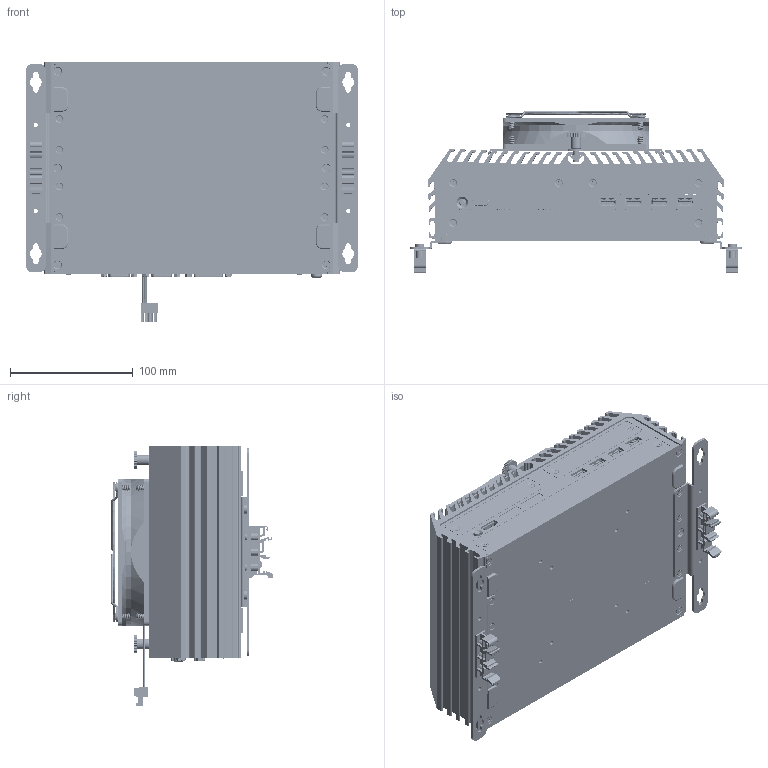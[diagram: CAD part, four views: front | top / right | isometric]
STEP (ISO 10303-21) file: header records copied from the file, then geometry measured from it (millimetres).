
FILE_DESCRIPTION (( 'STEP AP203' ), '1' );
FILE_NAME ('DX-1200+Wall Mount+DIN Rail+FAN_20260727.STEP', '2026-07-27T03:26:55', ( '' ), ( '' ), 'SwSTEP 2.0', 'SolidWorks 2014', '' );
FILE_SCHEMA (( 'CONFIG_CONTROL_DESIGN' ));
Length unit declared in the file: millimetre
Products named in the file (51): Din Rail-塑膠-町洋(M5-DINRZ790000); MANIFOLD_SOLID_BREP_901_1_1; Wall Mount Bracket(M1-208100051200); MANIFOLD_SOLID_BREP_902_1_1; Copper Stud_S38400B25N01(M3-COSD6L00000); Audio Jack_雙層_T-A032134001(23-D0262300090); NUT-M4_12; Main Board; Din Rail-塑膠-町洋(M5-DINRZ790000)-Screw-沙拉-90-十字-M3X10.5自攻_M3*4; Bottom Cover(M1-408100011100); MANIFOLD_SOLID_BREP_905_1_1; MANIFOLD_SOLID_BREP_900_1_1; Front Bezel(M1-408120024100); DVI-1-H-RISE(23-D0092300293); WHDM-19FLBSDR; DC_IN1_5EHDRM-03P_8(23-D0341500030); P頭_M5x8(十字)(太陽華司)(M3-SCREAB00002) ; MANIFOLD_SOLID_BREP_906_1_1; MANIFOLD_SOLID_BREP_903_1_1; Hole_Plug,MHD-7(M4-RUBR0100000); MANIFOLD_SOLID_BREP_907_1_1; DP1_Displayport_(23-D0242300200); PWR_BTN_TC003; 12_ASM_23_ASM; D-SUB 9_雙層_D20H1P1PA112A111N2(23-D0101100181); Symbol_Panel(M0-ZZZZ5C3003); Terminal Block_ECH350R-02P(23-D0341500020); M5-SP_3; Rubber Foot(M4-RUFT0100001); RITILA_ASM_1_ASM_4_ASM; F頭_M3x5(T10)(120)_黑(M3-N103052230); F頭_M3x18(T10)(120)+溝槽_黑(M3-1103182270); USB3.0_SMT_122-0921NA0504(23-S0142300090); MANIFOLD_SOLID_BREP_908_1_1; ROTOR_120MM_FAN_2_2; 120_X_120_X_25_DC_FAN_ASM_3_ASM_ASM; Top Cover(M1-408100006300); DX-1200+Wall Mount+DIN Rail+FAN_20260727; Front Matching Bezel(CNC)(M1-408100081220); F頭_M3X8(T10)(90)_黑(M3-N103082260)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
Assembly tree (107 placements, depth 4):
  DX-1200+Wall Mount+DIN Rail+FAN_20260727
    Top Cover(M1-408100006300)
      Top Cover
    Bottom Cover(M1-408100011100)
    Front Bezel(M1-408120024100)
    Rear Bezel(M1-408100031200)
    Front Matching Bezel(CNC)(M1-408100081220)
    Small Matching Bezel(M1-408100081200)  x4
    Main Board
      USB3.0_SMT_122-0921NA0504(23-S0142300090)  x4
      WHDM-19FLBSDR
      PWR_BTN_TC003
      Terminal Block_ECH350R-02P(23-D0341500020)
      Audio Jack_雙層_T-A032134001(23-D0262300090)
      D-SUB 9_雙層_D20H1P1PA112A111N2(23-D0101100181)  x2
      Terminal Block_ECH350R-04P(23-D0341500040)
      DP1_Displayport_(23-D0242300200)
      DVI-1-H-RISE(23-D0092300293)
      RJ45+USB3.0x2_三層_JFM38U1B_B313_4F(23-D0202300320)  x2
      DC_IN1_5EHDRM-03P_8(23-D0341500030)
    Copper Stud_S38400B25N01(M3-COSD6L00000)  x10
    F頭_M3x5(T10)(120)_黑(M3-N103052230)  x16
    F頭_M3X8(T10)(90)_黑(M3-N103082260)  x6
    F頭_M3x18(T10)(120)+溝槽_黑(M3-1103182270)  x2
    P頭_M5x8(十字)(太陽華司)(M3-SCREAB00002) 
    Hole_Plug,MHD-7(M4-RUBR0100000)  x3
    Rubber Foot(M4-RUFT0100001)  x4
    Symbol_Panel(M0-ZZZZ5C3003)
    Wall Mount Bracket(M1-208100051200)  x2
    Din Rail-塑膠-町洋(M5-DINRZ790000)  x2
    Din Rail-塑膠-町洋(M5-DINRZ790000)-Screw-沙拉-90-十字-M3X10.5自攻_M3*4  x4
    12_ASM_23_ASM
      12-PLATE_9
      M5-SP_3  x2
      120_X_120_X_25_DC_FAN_ASM_3_ASM_ASM
        ROTOR_120MM_FAN_2_2
        VOLUMENK_S_VRPER1-4576_2_2
      NUT-M4_12  x2
      RUUVI_1_1  x8
      RITILA_ASM_1_ASM_4_ASM
        MANIFOLD_SOLID_BREP_899_1_1
        MANIFOLD_SOLID_BREP_900_1_1
        MANIFOLD_SOLID_BREP_901_1_1
        MANIFOLD_SOLID_BREP_902_1_1
        MANIFOLD_SOLID_BREP_903_1_1
        MANIFOLD_SOLID_BREP_904_1_1
        MANIFOLD_SOLID_BREP_905_1_1
        MANIFOLD_SOLID_BREP_906_1_1
        MANIFOLD_SOLID_BREP_907_1_1
        MANIFOLD_SOLID_BREP_908_1_1
      外接電源B-4腳
Bounding box: 271 x 132.17 x 212.09 mm (x, y, z)
Volume: 908334.2 mm3; surface area: 639179.6 mm2
Topology: 141 solids, 312 shells, 28053 faces, 78485 edges, 50637 vertices
Faces by surface type: plane 17039, cylinder 8439, bspline 1650, cone 715, torus 207, sphere 3
Entity records: 608788 total; most frequent: CARTESIAN_POINT 176919, ORIENTED_EDGE 94018, DIRECTION 80510, EDGE_CURVE 47122, VECTOR 33230, LINE 33230, VERTEX_POINT 30508, AXIS2_PLACEMENT_3D 23640
